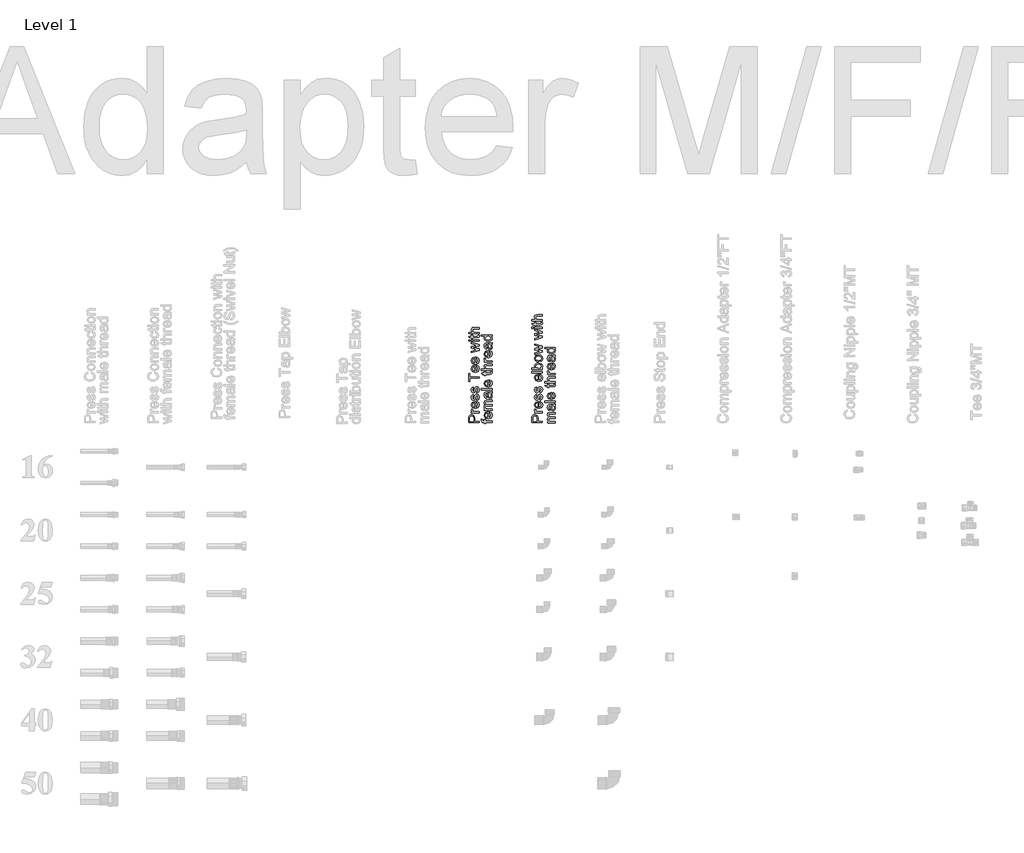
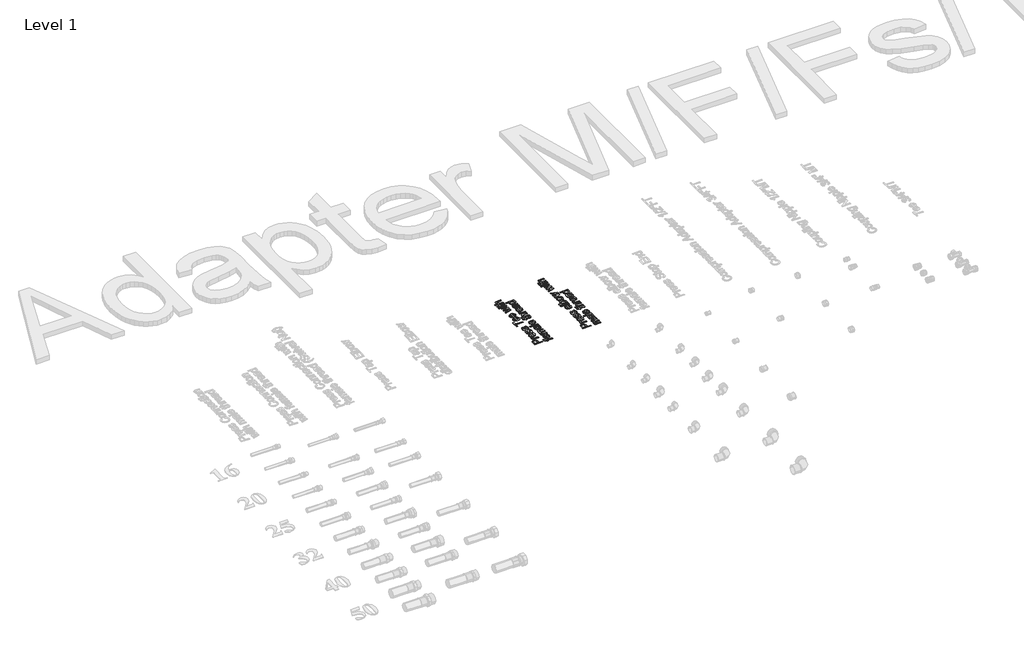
# One storey, part 44 of 57: 2 proxies.
"""IFC4 building model written with IfcOpenShell, lengths in millimetres."""

from ifc_helpers import new_model, si_unit, frame, origin, place, context, project, spatial, polyline, outline, extrude, element, save

model = new_model("IFC4")

# Units and contexts
model_context = context("Model", 3, world=origin())
ifc_project = project(units=[si_unit("LENGTHUNIT", "METRE", prefix="MILLI")], contexts=[model_context])

# Site, building, storey
site = spatial("IfcSite", under=ifc_project)
building = spatial("IfcBuilding", under=site)
storey = spatial("IfcBuildingStorey", under=building, Name="Level 1", Elevation=27.3876384)

# Proxies
placement = place(None, origin())
element("IfcBuildingElementProxy", 1, Name="50mm Arial", ObjectType="50mm Arial", at=placement, inside=storey, context=model_context, shape_type="SweptSolid", body=[
    extrude(outline(polyline([(31239.1417262, 30406.8112945), (31188.9135711, 30406.8112945), (31188.9135711, 30425.4261235), (31189.3918177, 30432.9309162), (31191.7401311, 30439.0316259), (31196.5961734, 30442.9863574), (31203.4449099, 30444.4824108), (31214.2974288, 30440.4418402), (31218.7365382, 30425.8553191), (31218.7365382, 30413.0898139), (31239.1417262, 30413.0898139), (31239.1417262, 30406.8112945)]), holes=[polyline([(31212.4580188, 30413.0898139), (31212.4580188, 30426.2232011), (31210.152625, 30435.4693019), (31203.6656391, 30438.2038914), (31198.4662402, 30436.591342), (31195.6212861, 30432.3545677), (31195.1920905, 30426.0760483), (31195.1920905, 30413.0898139), (31212.4580188, 30413.0898139)])]), frame((0.0, 0.0, 27.3876384), z_axis=(0.0, 0.0, 1.0), x_axis=(1.0, 0.0, 0.0)), (0.0, 0.0, 1.0), 2.0),
    extrude(outline(polyline([(31239.1417262, 30452.33056), (31202.2554248, 30452.33056), (31202.2554248, 30457.8242645), (31207.7123411, 30457.8242645), (31202.6846205, 30461.7238137), (31201.4706099, 30465.6478883), (31203.4081217, 30471.9509331), (31209.0367162, 30469.8540057), (31207.7491293, 30465.4394218), (31208.9876653, 30461.8893606), (31212.4212306, 30459.6268863), (31219.754345, 30458.6090794), (31239.1417262, 30458.6090794), (31239.1417262, 30452.33056)])), frame((0.0, 0.0, 27.3876384), z_axis=(0.0, 0.0, 1.0), x_axis=(1.0, 0.0, 0.0)), (0.0, 0.0, 1.0), 2.0),
    extrude(outline(polyline([(31228.1543173, 30501.7003238), (31228.9391322, 30507.8562159), (31237.0447988, 30502.0988626), (31239.9265411, 30491.3751025), (31234.9540028, 30478.3398171), (31221.0051438, 30473.520563), (31206.5964323, 30478.388868), (31201.4706099, 30491.0194832), (31206.5841696, 30503.2883477), (31220.9683556, 30508.0524196), (31222.6606128, 30508.0156314), (31222.6606128, 30479.7990824), (31230.8153304, 30483.4104573), (31233.6480217, 30491.4977298), (31232.3359093, 30497.6536219), (31228.1543173, 30501.7003238)]), holes=[polyline([(31216.3820934, 30479.7990824), (31216.3820934, 30501.7739002), (31210.6921852, 30499.2600399), (31207.7491293, 30490.9949577), (31210.0974427, 30483.2633045), (31216.3820934, 30479.7990824)])]), frame((0.0, 0.0, 27.3876384), z_axis=(0.0, 0.0, 1.0), x_axis=(1.0, 0.0, 0.0)), (0.0, 0.0, 1.0), 2.0),
    extrude(outline(polyline([(31228.1543173, 30511.9764942), (31227.3695023, 30518.2550136), (31232.0293409, 30521.1612813), (31233.6480217, 30527.8199455), (31232.164231, 30534.2210922), (31228.6816148, 30536.3057568), (31225.8611862, 30534.2088294), (31224.0708271, 30527.7463691), (31220.9990124, 30518.2918018), (31217.412163, 30514.1653921), (31212.3476542, 30512.7613091), (31207.6694215, 30513.8894806), (31204.0948348, 30516.9674266), (31202.2370307, 30520.9589462), (31201.4706099, 30526.3606802), (31202.7030146, 30534.000363), (31206.038478, 30538.8564053), (31211.6732039, 30541.0146464), (31212.4580188, 30534.736127), (31208.9937967, 30532.3755508), (31207.7491293, 30526.8511895), (31208.9386144, 30520.8424503), (31211.7099921, 30519.0398285), (31213.5371393, 30519.7878552), (31214.9228282, 30522.1300373), (31216.2594661, 30527.5379026), (31219.2147848, 30536.7533466), (31222.5625109, 30541.0330404), (31228.0194272, 30542.5842762), (31234.0281664, 30540.7632603), (31238.3875681, 30535.5086792), (31239.9265411, 30527.7341063), (31236.9589597, 30516.7834856), (31228.1543173, 30511.9764942)])), frame((0.0, 0.0, 27.3876384), z_axis=(0.0, 0.0, 1.0), x_axis=(1.0, 0.0, 0.0)), (0.0, 0.0, 1.0), 2.0),
    extrude(outline(polyline([(31228.1543173, 30547.2931657), (31227.3695023, 30553.5716851), (31232.0293409, 30556.4779529), (31233.6480217, 30563.136617), (31232.164231, 30569.5377637), (31228.6816148, 30571.6224283), (31225.8611862, 30569.525501), (31224.0708271, 30563.0630406), (31220.9990124, 30553.6084733), (31217.412163, 30549.4820636), (31212.3476542, 30548.0779807), (31207.6694215, 30549.2061521), (31204.0948348, 30552.2840981), (31202.2370307, 30556.2756178), (31201.4706099, 30561.6773517), (31202.7030146, 30569.3170345), (31206.038478, 30574.1730768), (31211.6732039, 30576.3313179), (31212.4580188, 30570.0527985), (31208.9937967, 30567.6922224), (31207.7491293, 30562.1678611), (31208.9386144, 30556.1591218), (31211.7099921, 30554.3565), (31213.5371393, 30555.1045268), (31214.9228282, 30557.4467088), (31216.2594661, 30562.8545741), (31219.2147848, 30572.0700181), (31222.5625109, 30576.349712), (31228.0194272, 30577.9009477), (31234.0281664, 30576.0799319), (31238.3875681, 30570.8253507), (31239.9265411, 30563.0507779), (31236.9589597, 30552.1001571), (31228.1543173, 30547.2931657)])), frame((0.0, 0.0, 27.3876384), z_axis=(0.0, 0.0, 1.0), x_axis=(1.0, 0.0, 0.0)), (0.0, 0.0, 1.0), 2.0),
    extrude(outline(polyline([(31239.1417262, 30617.9265088), (31195.1920905, 30617.9265088), (31195.1920905, 30601.4453954), (31188.9135711, 30601.4453954), (31188.9135711, 30640.6861416), (31195.1920905, 30640.6861416), (31195.1920905, 30624.2050282), (31239.1417262, 30624.2050282), (31239.1417262, 30617.9265088)])), frame((0.0, 0.0, 27.3876384), z_axis=(0.0, 0.0, 1.0), x_axis=(1.0, 0.0, 0.0)), (0.0, 0.0, 1.0), 2.0),
    extrude(outline(polyline([(31228.1543173, 30672.789977), (31228.9391322, 30678.9458691), (31237.0447988, 30673.1885159), (31239.9265411, 30662.4647557), (31234.9540028, 30649.4294703), (31221.0051438, 30644.6102162), (31206.5964323, 30649.4785213), (31201.4706099, 30662.1091364), (31206.5841696, 30674.378001), (31220.9683556, 30679.1420728), (31222.6606128, 30679.1052846), (31222.6606128, 30650.8887356), (31230.8153304, 30654.5001105), (31233.6480217, 30662.587383), (31232.3359093, 30668.7432751), (31228.1543173, 30672.789977)]), holes=[polyline([(31216.3820934, 30650.8887356), (31216.3820934, 30672.8635534), (31210.6921852, 30670.3496931), (31207.7491293, 30662.084611), (31210.0974427, 30654.3529577), (31216.3820934, 30650.8887356)])]), frame((0.0, 0.0, 27.3876384), z_axis=(0.0, 0.0, 1.0), x_axis=(1.0, 0.0, 0.0)), (0.0, 0.0, 1.0), 2.0),
    extrude(outline(polyline([(31228.1543173, 30711.2459083), (31228.9391322, 30717.4018003), (31237.0447988, 30711.6444471), (31239.9265411, 30700.9206869), (31234.9540028, 30687.8854016), (31221.0051438, 30683.0661474), (31206.5964323, 30687.9344525), (31201.4706099, 30700.5650677), (31206.5841696, 30712.8339322), (31220.9683556, 30717.598004), (31222.6606128, 30717.5612158), (31222.6606128, 30689.3446668), (31230.8153304, 30692.9560417), (31233.6480217, 30701.0433143), (31232.3359093, 30707.1992063), (31228.1543173, 30711.2459083)]), holes=[polyline([(31216.3820934, 30689.3446668), (31216.3820934, 30711.3194847), (31210.6921852, 30708.8056244), (31207.7491293, 30700.5405422), (31210.0974427, 30692.8088889), (31216.3820934, 30689.3446668)])]), frame((0.0, 0.0, 27.3876384), z_axis=(0.0, 0.0, 1.0), x_axis=(1.0, 0.0, 0.0)), (0.0, 0.0, 1.0), 2.0),
    extrude(outline(polyline([(31239.1417262, 30749.6160003), (31202.2554248, 30738.3955995), (31202.2554248, 30744.9193735), (31223.7765215, 30751.2837321), (31231.4652552, 30753.1844557), (31224.0585644, 30754.7418228), (31202.2554248, 30759.8063316), (31202.2554248, 30767.2865989), (31223.9972507, 30772.3265822), (31230.7049658, 30773.712271), (31223.6293687, 30775.6988338), (31202.2554248, 30782.0754551), (31202.2554248, 30788.6237546), (31239.1417262, 30777.3175146), (31239.1417262, 30769.7268828), (31217.5102649, 30764.9076286), (31210.7657616, 30763.509677), (31239.1417262, 30757.2924713), (31239.1417262, 30749.6160003)])), frame((0.0, 0.0, 27.3876384), z_axis=(0.0, 0.0, 1.0), x_axis=(1.0, 0.0, 0.0)), (0.0, 0.0, 1.0), 2.0),
    extrude(outline(polyline([(31239.1417262, 30792.9402366), (31202.2554248, 30792.9402366), (31202.2554248, 30799.218756), (31239.1417262, 30799.218756), (31239.1417262, 30792.9402366)])), frame((0.0, 0.0, 27.3876384), z_axis=(0.0, 0.0, 1.0), x_axis=(1.0, 0.0, 0.0)), (0.0, 0.0, 1.0), 2.0),
    extrude(outline(polyline([(31195.1920905, 30792.9402366), (31188.9135711, 30792.9402366), (31188.9135711, 30799.218756), (31195.1920905, 30799.218756), (31195.1920905, 30792.9402366)])), frame((0.0, 0.0, 27.3876384), z_axis=(0.0, 0.0, 1.0), x_axis=(1.0, 0.0, 0.0)), (0.0, 0.0, 1.0), 2.0),
    extrude(outline(polyline([(31233.9055391, 30821.9783888), (31239.3256672, 30822.7632037), (31239.9265411, 30818.0665769), (31238.8842088, 30812.8058644), (31236.1496193, 30810.1816395), (31229.0249713, 30809.42135), (31208.5339442, 30809.42135), (31208.5339442, 30804.7124605), (31202.2554248, 30804.7124605), (31202.2554248, 30809.42135), (31193.2913668, 30809.42135), (31189.6002842, 30815.6998694), (31202.2554248, 30815.6998694), (31202.2554248, 30821.9783888), (31208.5339442, 30821.9783888), (31208.5339442, 30815.6998694), (31228.8410303, 30815.6998694), (31232.0783919, 30816.0309632), (31233.6480217, 30819.2437993), (31233.9055391, 30821.9783888)])), frame((0.0, 0.0, 27.3876384), z_axis=(0.0, 0.0, 1.0), x_axis=(1.0, 0.0, 0.0)), (0.0, 0.0, 1.0), 2.0),
    extrude(outline(polyline([(31239.1417262, 30828.2569082), (31188.9135711, 30828.2569082), (31188.9135711, 30834.5354276), (31207.3812473, 30834.5354276), (31201.4706099, 30845.4615228), (31203.0831593, 30852.5125944), (31207.5406628, 30856.7922883), (31215.7934822, 30858.0798753), (31239.1417262, 30858.0798753), (31239.1417262, 30851.8013559), (31216.4434071, 30851.8013559), (31209.8215312, 30849.8025304), (31207.7491293, 30844.1371476), (31209.1470808, 30838.9929311), (31212.9362654, 30835.5593658), (31219.5458786, 30834.5354276), (31239.1417262, 30834.5354276), (31239.1417262, 30828.2569082)])), frame((0.0, 0.0, 27.3876384), z_axis=(0.0, 0.0, 1.0), x_axis=(1.0, 0.0, 0.0)), (0.0, 0.0, 1.0), 2.0),
    extrude(outline(polyline([(31300.1291351, 30407.5961094), (31269.5213531, 30407.5961094), (31269.5213531, 30402.102405), (31263.2428337, 30402.102405), (31263.2428337, 30407.5961094), (31259.5272256, 30407.5961094), (31254.2910385, 30408.258297), (31250.5509049, 30411.4711331), (31249.1161651, 30417.7987034), (31249.8028782, 30423.5253998), (31255.6889901, 30422.6056948), (31255.3946845, 30418.9881885), (31256.4370168, 30415.0334571), (31260.3243032, 30413.8746288), (31263.2428337, 30413.8746288), (31263.2428337, 30420.9379631), (31269.5213531, 30420.9379631), (31269.5213531, 30413.8746288), (31300.1291351, 30413.8746288), (31300.1291351, 30407.5961094)])), frame((0.0, 0.0, 27.3876384), z_axis=(0.0, 0.0, 1.0), x_axis=(1.0, 0.0, 0.0)), (0.0, 0.0, 1.0), 2.0),
    extrude(outline(polyline([(31289.1417262, 30452.2569836), (31289.9265411, 30458.4128757), (31298.0322077, 30452.6555225), (31300.91395, 30441.9317623), (31295.9414117, 30428.896477), (31281.9925527, 30424.0772228), (31267.5838413, 30428.9455279), (31262.4580188, 30441.5761431), (31267.5715785, 30453.8450076), (31281.9557645, 30458.6090794), (31283.6480217, 30458.5722912), (31283.6480217, 30430.3557422), (31291.8027393, 30433.9671171), (31294.6354306, 30442.0543896), (31293.3233182, 30448.2102817), (31289.1417262, 30452.2569836)]), holes=[polyline([(31277.3695023, 30430.3557422), (31277.3695023, 30452.33056), (31271.6795941, 30449.8166997), (31268.7365382, 30441.5516176), (31271.0848516, 30433.8199643), (31277.3695023, 30430.3557422)])]), frame((0.0, 0.0, 27.3876384), z_axis=(0.0, 0.0, 1.0), x_axis=(1.0, 0.0, 0.0)), (0.0, 0.0, 1.0), 2.0),
    extrude(outline(polyline([(31300.1291351, 30464.8875988), (31263.2428337, 30464.8875988), (31263.2428337, 30471.1661182), (31269.3128866, 30471.1661182), (31264.3403483, 30475.4826003), (31262.4580188, 30481.6262296), (31264.3771365, 30487.9170117), (31269.754345, 30491.3751025), (31264.2821004, 30496.2740644), (31262.4580188, 30502.4606133), (31265.4930453, 30510.6705131), (31274.8433793, 30513.546124), (31300.1291351, 30513.546124), (31300.1291351, 30507.2676047), (31277.5411806, 30507.2676047), (31272.2988622, 30506.6851248), (31269.7175568, 30504.5759347), (31268.7365382, 30500.9890853), (31271.2503985, 30494.8147991), (31279.3070142, 30492.3561211), (31300.1291351, 30492.3561211), (31300.1291351, 30486.0776017), (31276.8422048, 30486.0776017), (31270.7598892, 30484.6244679), (31268.7365382, 30479.860396), (31270.0854388, 30475.2128201), (31274.0340389, 30472.1226114), (31281.5265689, 30471.1661182), (31300.1291351, 30471.1661182), (31300.1291351, 30464.8875988)])), frame((0.0, 0.0, 27.3876384), z_axis=(0.0, 0.0, 1.0), x_axis=(1.0, 0.0, 0.0)), (0.0, 0.0, 1.0), 2.0),
    extrude(outline(polyline([(31295.4202456, 30546.5083508), (31299.675414, 30540.4199038), (31300.91395, 30533.6937946), (31297.9341059, 30524.5764525), (31290.3189486, 30521.3942733), (31285.3525416, 30522.5960211), (31281.7472981, 30525.7536749), (31279.6871589, 30530.1498648), (31278.7429284, 30535.5822556), (31276.5846874, 30546.4715626), (31270.5514227, 30544.7793054), (31268.7365382, 30537.8385985), (31269.9444174, 30531.4865027), (31274.2302426, 30528.4576076), (31273.4454277, 30522.1790882), (31267.3140611, 30524.8952836), (31263.7210803, 30530.3644626), (31262.4580188, 30538.6479388), (31263.5739275, 30546.2569648), (31266.375962, 30550.5550528), (31270.6372618, 30552.4803019), (31276.1309663, 30552.7868702), (31283.9423273, 30552.7868702), (31294.8500285, 30553.1057013), (31300.1291351, 30554.3565), (31300.1291351, 30548.0779807), (31295.4202456, 30546.5083508)]), holes=[polyline([(31282.8632068, 30546.5083508), (31284.7884559, 30536.3793332), (31285.8062628, 30530.9775992), (31287.4617317, 30528.531184), (31289.8774902, 30527.6727927), (31293.2742673, 30529.5428595), (31294.6354306, 30535.0304326), (31293.1332458, 30541.3825283), (31289.4973454, 30545.4782812), (31284.6413031, 30546.4715626), (31282.8632068, 30546.5083508)])]), frame((0.0, 0.0, 27.3876384), z_axis=(0.0, 0.0, 1.0), x_axis=(1.0, 0.0, 0.0)), (0.0, 0.0, 1.0), 2.0),
    extrude(outline(polyline([(31300.1291351, 30561.4198343), (31249.90098, 30561.4198343), (31249.90098, 30567.6983537), (31300.1291351, 30567.6983537), (31300.1291351, 30561.4198343)])), frame((0.0, 0.0, 27.3876384), z_axis=(0.0, 0.0, 1.0), x_axis=(1.0, 0.0, 0.0)), (0.0, 0.0, 1.0), 2.0),
    extrude(outline(polyline([(31289.1417262, 30602.9414489), (31289.9265411, 30609.0973409), (31298.0322077, 30603.3399877), (31300.91395, 30592.6162275), (31295.9414117, 30579.5809422), (31281.9925527, 30574.761688), (31267.5838413, 30579.6299931), (31262.4580188, 30592.2606083), (31267.5715785, 30604.5294728), (31281.9557645, 30609.2935447), (31283.6480217, 30609.2567565), (31283.6480217, 30581.0402074), (31291.8027393, 30584.6515823), (31294.6354306, 30592.7388549), (31293.3233182, 30598.8947469), (31289.1417262, 30602.9414489)]), holes=[polyline([(31277.3695023, 30581.0402074), (31277.3695023, 30603.0150253), (31271.6795941, 30600.501165), (31268.7365382, 30592.2360828), (31271.0848516, 30584.5044295), (31277.3695023, 30581.0402074)])]), frame((0.0, 0.0, 27.3876384), z_axis=(0.0, 0.0, 1.0), x_axis=(1.0, 0.0, 0.0)), (0.0, 0.0, 1.0), 2.0),
    extrude(outline(polyline([(31294.892948, 30648.5342908), (31300.3130761, 30649.3191057), (31300.91395, 30644.6224789), (31299.8716177, 30639.3617664), (31297.1370282, 30636.7375415), (31290.0123802, 30635.977252), (31269.5213531, 30635.977252), (31269.5213531, 30631.2683625), (31263.2428337, 30631.2683625), (31263.2428337, 30635.977252), (31254.2787758, 30635.977252), (31250.5876931, 30642.2557714), (31263.2428337, 30642.2557714), (31263.2428337, 30648.5342908), (31269.5213531, 30648.5342908), (31269.5213531, 30642.2557714), (31289.8284392, 30642.2557714), (31293.0658008, 30642.5868652), (31294.6354306, 30645.7997013), (31294.892948, 30648.5342908)])), frame((0.0, 0.0, 27.3876384), z_axis=(0.0, 0.0, 1.0), x_axis=(1.0, 0.0, 0.0)), (0.0, 0.0, 1.0), 2.0),
    extrude(outline(polyline([(31300.1291351, 30654.8128102), (31249.90098, 30654.8128102), (31249.90098, 30661.0913296), (31268.3686562, 30661.0913296), (31262.4580188, 30672.0174248), (31264.0705682, 30679.0684964), (31268.5280717, 30683.3481903), (31276.7808911, 30684.6357773), (31300.1291351, 30684.6357773), (31300.1291351, 30678.3572579), (31277.430816, 30678.3572579), (31270.8089401, 30676.3584324), (31268.7365382, 30670.6930496), (31270.1344898, 30665.5488331), (31273.9236743, 30662.1152678), (31280.5332875, 30661.0913296), (31300.1291351, 30661.0913296), (31300.1291351, 30654.8128102)])), frame((0.0, 0.0, 27.3876384), z_axis=(0.0, 0.0, 1.0), x_axis=(1.0, 0.0, 0.0)), (0.0, 0.0, 1.0), 2.0),
    extrude(outline(polyline([(31300.1291351, 30693.2687414), (31263.2428337, 30693.2687414), (31263.2428337, 30698.7624459), (31268.69975, 30698.7624459), (31263.6720294, 30702.661995), (31262.4580188, 30706.5860696), (31264.3955306, 30712.8891145), (31270.0241252, 30710.7921871), (31268.7365382, 30706.3776032), (31269.9750742, 30702.8275419), (31273.4086395, 30700.5650677), (31280.741754, 30699.5472608), (31300.1291351, 30699.5472608), (31300.1291351, 30693.2687414)])), frame((0.0, 0.0, 27.3876384), z_axis=(0.0, 0.0, 1.0), x_axis=(1.0, 0.0, 0.0)), (0.0, 0.0, 1.0), 2.0),
    extrude(outline(polyline([(31289.1417262, 30742.6385052), (31289.9265411, 30748.7943972), (31298.0322077, 30743.037044), (31300.91395, 30732.3132838), (31295.9414117, 30719.2779985), (31281.9925527, 30714.4587443), (31267.5838413, 30719.3270494), (31262.4580188, 30731.9576646), (31267.5715785, 30744.2265291), (31281.9557645, 30748.990601), (31283.6480217, 30748.9538128), (31283.6480217, 30720.7372637), (31291.8027393, 30724.3486386), (31294.6354306, 30732.4359112), (31293.3233182, 30738.5918032), (31289.1417262, 30742.6385052)]), holes=[polyline([(31277.3695023, 30720.7372637), (31277.3695023, 30742.7120816), (31271.6795941, 30740.1982213), (31268.7365382, 30731.9331391), (31271.0848516, 30724.2014858), (31277.3695023, 30720.7372637)])]), frame((0.0, 0.0, 27.3876384), z_axis=(0.0, 0.0, 1.0), x_axis=(1.0, 0.0, 0.0)), (0.0, 0.0, 1.0), 2.0),
    extrude(outline(polyline([(31295.4202456, 30778.813568), (31299.675414, 30772.725121), (31300.91395, 30765.9990119), (31297.9341059, 30756.8816698), (31290.3189486, 30753.6994905), (31285.3525416, 30754.9012383), (31281.7472981, 30758.0588921), (31279.6871589, 30762.455082), (31278.7429284, 30767.8874728), (31276.5846874, 30778.7767798), (31270.5514227, 30777.0845227), (31268.7365382, 30770.1438157), (31269.9444174, 30763.7917199), (31274.2302426, 30760.7628248), (31273.4454277, 30754.4843054), (31267.3140611, 30757.2005008), (31263.7210803, 30762.6696798), (31262.4580188, 30770.9531561), (31263.5739275, 30778.562182), (31266.375962, 30782.86027), (31270.6372618, 30784.7855191), (31276.1309663, 30785.0920874), (31283.9423273, 30785.0920874), (31294.8500285, 30785.4109185), (31300.1291351, 30786.6617173), (31300.1291351, 30780.3831979), (31295.4202456, 30778.813568)]), holes=[polyline([(31282.8632068, 30778.813568), (31284.7884559, 30768.6845504), (31285.8062628, 30763.2828165), (31287.4617317, 30760.8364012), (31289.8774902, 30759.9780099), (31293.2742673, 30761.8480767), (31294.6354306, 30767.3356498), (31293.1332458, 30773.6877456), (31289.4973454, 30777.7834984), (31284.6413031, 30778.7767798), (31282.8632068, 30778.813568)])]), frame((0.0, 0.0, 27.3876384), z_axis=(0.0, 0.0, 1.0), x_axis=(1.0, 0.0, 0.0)), (0.0, 0.0, 1.0), 2.0),
    extrude(outline(polyline([(31300.1291351, 30816.4846843), (31294.206235, 30816.4846843), (31299.2370213, 30812.3306835), (31300.91395, 30806.5886587), (31298.4859289, 30798.8140858), (31291.7107688, 30793.3203814), (31281.7227726, 30791.3706068), (31271.7286451, 30793.1670972), (31264.8492518, 30798.5504371), (31262.4580188, 30806.5641332), (31264.1686701, 30812.3521433), (31268.6139108, 30816.4846843), (31249.90098, 30816.4846843), (31249.90098, 30822.7632037), (31300.1291351, 30822.7632037), (31300.1291351, 30816.4846843)]), holes=[polyline([(31281.6982471, 30797.6491262), (31291.4164632, 30800.4818175), (31294.6354306, 30807.1650071), (31291.563616, 30813.7684889), (31282.1764937, 30816.4846843), (31271.9861625, 30813.719438), (31268.7365382, 30806.9074897), (31271.8574038, 30800.2978766), (31281.6982471, 30797.6491262)])]), frame((0.0, 0.0, 27.3876384), z_axis=(0.0, 0.0, 1.0), x_axis=(1.0, 0.0, 0.0)), (0.0, 0.0, 1.0), 2.0),
])
element("IfcBuildingElementProxy", 2, Name="50mm Arial", ObjectType="50mm Arial", at=placement, inside=storey, context=model_context, shape_type="SweptSolid", body=[
    extrude(outline(polyline([(31539.1417262, 30406.8112945), (31488.9135711, 30406.8112945), (31488.9135711, 30425.4261235), (31489.3918177, 30432.9309162), (31491.7401311, 30439.0316259), (31496.5961734, 30442.9863574), (31503.4449099, 30444.4824108), (31514.2974288, 30440.4418402), (31518.7365382, 30425.8553191), (31518.7365382, 30413.0898139), (31539.1417262, 30413.0898139), (31539.1417262, 30406.8112945)]), holes=[polyline([(31512.4580188, 30413.0898139), (31512.4580188, 30426.2232011), (31510.152625, 30435.4693019), (31503.6656391, 30438.2038914), (31498.4662402, 30436.591342), (31495.6212861, 30432.3545677), (31495.1920905, 30426.0760483), (31495.1920905, 30413.0898139), (31512.4580188, 30413.0898139)])]), frame((0.0, 0.0, 27.3876384), z_axis=(0.0, 0.0, 1.0), x_axis=(1.0, 0.0, 0.0)), (0.0, 0.0, 1.0), 2.0),
    extrude(outline(polyline([(31539.1417262, 30452.33056), (31502.2554248, 30452.33056), (31502.2554248, 30457.8242645), (31507.7123411, 30457.8242645), (31502.6846205, 30461.7238137), (31501.4706099, 30465.6478883), (31503.4081217, 30471.9509331), (31509.0367162, 30469.8540057), (31507.7491293, 30465.4394218), (31508.9876653, 30461.8893606), (31512.4212306, 30459.6268863), (31519.754345, 30458.6090794), (31539.1417262, 30458.6090794), (31539.1417262, 30452.33056)])), frame((0.0, 0.0, 27.3876384), z_axis=(0.0, 0.0, 1.0), x_axis=(1.0, 0.0, 0.0)), (0.0, 0.0, 1.0), 2.0),
    extrude(outline(polyline([(31528.1543173, 30501.7003238), (31528.9391322, 30507.8562159), (31537.0447988, 30502.0988626), (31539.9265411, 30491.3751025), (31534.9540028, 30478.3398171), (31521.0051438, 30473.520563), (31506.5964323, 30478.388868), (31501.4706099, 30491.0194832), (31506.5841696, 30503.2883477), (31520.9683556, 30508.0524196), (31522.6606128, 30508.0156314), (31522.6606128, 30479.7990824), (31530.8153304, 30483.4104573), (31533.6480217, 30491.4977298), (31532.3359093, 30497.6536219), (31528.1543173, 30501.7003238)]), holes=[polyline([(31516.3820934, 30479.7990824), (31516.3820934, 30501.7739002), (31510.6921852, 30499.2600399), (31507.7491293, 30490.9949577), (31510.0974427, 30483.2633045), (31516.3820934, 30479.7990824)])]), frame((0.0, 0.0, 27.3876384), z_axis=(0.0, 0.0, 1.0), x_axis=(1.0, 0.0, 0.0)), (0.0, 0.0, 1.0), 2.0),
    extrude(outline(polyline([(31528.1543173, 30511.9764942), (31527.3695023, 30518.2550136), (31532.0293409, 30521.1612813), (31533.6480217, 30527.8199455), (31532.164231, 30534.2210922), (31528.6816148, 30536.3057568), (31525.8611862, 30534.2088294), (31524.0708271, 30527.7463691), (31520.9990124, 30518.2918018), (31517.412163, 30514.1653921), (31512.3476542, 30512.7613091), (31507.6694215, 30513.8894806), (31504.0948348, 30516.9674266), (31502.2370307, 30520.9589462), (31501.4706099, 30526.3606802), (31502.7030146, 30534.000363), (31506.038478, 30538.8564053), (31511.6732039, 30541.0146464), (31512.4580188, 30534.736127), (31508.9937967, 30532.3755508), (31507.7491293, 30526.8511895), (31508.9386144, 30520.8424503), (31511.7099921, 30519.0398285), (31513.5371393, 30519.7878552), (31514.9228282, 30522.1300373), (31516.2594661, 30527.5379026), (31519.2147848, 30536.7533466), (31522.5625109, 30541.0330404), (31528.0194272, 30542.5842762), (31534.0281664, 30540.7632603), (31538.3875681, 30535.5086792), (31539.9265411, 30527.7341063), (31536.9589597, 30516.7834856), (31528.1543173, 30511.9764942)])), frame((0.0, 0.0, 27.3876384), z_axis=(0.0, 0.0, 1.0), x_axis=(1.0, 0.0, 0.0)), (0.0, 0.0, 1.0), 2.0),
    extrude(outline(polyline([(31528.1543173, 30547.2931657), (31527.3695023, 30553.5716851), (31532.0293409, 30556.4779529), (31533.6480217, 30563.136617), (31532.164231, 30569.5377637), (31528.6816148, 30571.6224283), (31525.8611862, 30569.525501), (31524.0708271, 30563.0630406), (31520.9990124, 30553.6084733), (31517.412163, 30549.4820636), (31512.3476542, 30548.0779807), (31507.6694215, 30549.2061521), (31504.0948348, 30552.2840981), (31502.2370307, 30556.2756178), (31501.4706099, 30561.6773517), (31502.7030146, 30569.3170345), (31506.038478, 30574.1730768), (31511.6732039, 30576.3313179), (31512.4580188, 30570.0527985), (31508.9937967, 30567.6922224), (31507.7491293, 30562.1678611), (31508.9386144, 30556.1591218), (31511.7099921, 30554.3565), (31513.5371393, 30555.1045268), (31514.9228282, 30557.4467088), (31516.2594661, 30562.8545741), (31519.2147848, 30572.0700181), (31522.5625109, 30576.349712), (31528.0194272, 30577.9009477), (31534.0281664, 30576.0799319), (31538.3875681, 30570.8253507), (31539.9265411, 30563.0507779), (31536.9589597, 30552.1001571), (31528.1543173, 30547.2931657)])), frame((0.0, 0.0, 27.3876384), z_axis=(0.0, 0.0, 1.0), x_axis=(1.0, 0.0, 0.0)), (0.0, 0.0, 1.0), 2.0),
    extrude(outline(polyline([(31528.1543173, 30630.4099712), (31528.9391322, 30636.5658632), (31537.0447988, 30630.80851), (31539.9265411, 30620.0847498), (31534.9540028, 30607.0494645), (31521.0051438, 30602.2302103), (31506.5964323, 30607.0985154), (31501.4706099, 30619.7291306), (31506.5841696, 30631.9979951), (31520.9683556, 30636.762067), (31522.6606128, 30636.7252788), (31522.6606128, 30608.5087297), (31530.8153304, 30612.1201047), (31533.6480217, 30620.2073772), (31532.3359093, 30626.3632692), (31528.1543173, 30630.4099712)]), holes=[polyline([(31516.3820934, 30608.5087297), (31516.3820934, 30630.4835476), (31510.6921852, 30627.9696873), (31507.7491293, 30619.7046051), (31510.0974427, 30611.9729519), (31516.3820934, 30608.5087297)])]), frame((0.0, 0.0, 27.3876384), z_axis=(0.0, 0.0, 1.0), x_axis=(1.0, 0.0, 0.0)), (0.0, 0.0, 1.0), 2.0),
    extrude(outline(polyline([(31539.1417262, 30643.0405863), (31488.9135711, 30643.0405863), (31488.9135711, 30649.3191057), (31539.1417262, 30649.3191057), (31539.1417262, 30643.0405863)])), frame((0.0, 0.0, 27.3876384), z_axis=(0.0, 0.0, 1.0), x_axis=(1.0, 0.0, 0.0)), (0.0, 0.0, 1.0), 2.0),
    extrude(outline(polyline([(31539.1417262, 30665.0154042), (31539.1417262, 30658.7368848), (31488.9135711, 30658.7368848), (31488.9135711, 30665.0154042), (31507.5406628, 30665.0154042), (31501.4706099, 30674.8746417), (31502.8379046, 30681.1654238), (31506.6822715, 30686.0459916), (31512.6603539, 30689.0442298), (31520.1467525, 30690.1294817), (31534.7639304, 30685.63519), (31539.9265411, 30674.8378535), (31538.2618751, 30669.2552442), (31533.267877, 30665.0154042), (31539.1417262, 30665.0154042)]), holes=[polyline([(31520.4410581, 30665.0154042), (31529.221175, 30666.7321868), (31533.6480217, 30674.2982932), (31530.3861347, 30681.018271), (31520.6617873, 30683.8509623), (31510.9006517, 30681.1347669), (31507.7491293, 30674.5680733), (31511.0110163, 30667.8480956), (31520.4410581, 30665.0154042)])]), frame((0.0, 0.0, 27.3876384), z_axis=(0.0, 0.0, 1.0), x_axis=(1.0, 0.0, 0.0)), (0.0, 0.0, 1.0), 2.0),
    extrude(outline(polyline([(31520.6985755, 30695.6231862), (31511.8050283, 30696.9812839), (31505.5541, 30701.055577), (31501.4706099, 30712.1165623), (31506.4431482, 30723.9807567), (31520.1835407, 30728.585413), (31531.3548906, 30726.5497993), (31537.6763296, 30720.6207678), (31539.9265411, 30712.1165623), (31534.9723969, 30700.1787916), (31520.6985755, 30695.6231862)]), holes=[polyline([(31520.6863128, 30701.9017056), (31530.4167915, 30704.8079733), (31533.6480217, 30712.1165623), (31530.3983974, 30719.4006258), (31520.490109, 30722.3068936), (31510.9803594, 30719.3822317), (31507.7491293, 30712.1165623), (31510.9680967, 30704.8079733), (31520.6863128, 30701.9017056)])]), frame((0.0, 0.0, 27.3876384), z_axis=(0.0, 0.0, 1.0), x_axis=(1.0, 0.0, 0.0)), (0.0, 0.0, 1.0), 2.0),
    extrude(outline(polyline([(31539.1417262, 30741.7678511), (31502.2554248, 30730.5474503), (31502.2554248, 30737.0712243), (31523.7765215, 30743.4355828), (31531.4652552, 30745.3363065), (31524.0585644, 30746.8936736), (31502.2554248, 30751.9581824), (31502.2554248, 30759.4384496), (31523.9972507, 30764.478433), (31530.7049658, 30765.8641218), (31523.6293687, 30767.8506846), (31502.2554248, 30774.2273058), (31502.2554248, 30780.7756053), (31539.1417262, 30769.4693654), (31539.1417262, 30761.8787335), (31517.5102649, 30757.0594794), (31510.7657616, 30755.6615278), (31539.1417262, 30749.4443221), (31539.1417262, 30741.7678511)])), frame((0.0, 0.0, 27.3876384), z_axis=(0.0, 0.0, 1.0), x_axis=(1.0, 0.0, 0.0)), (0.0, 0.0, 1.0), 2.0),
    extrude(outline(polyline([(31539.1417262, 30810.8315643), (31502.2554248, 30799.6111635), (31502.2554248, 30806.1349375), (31523.7765215, 30812.4992961), (31531.4652552, 30814.4000197), (31524.0585644, 30815.9573868), (31502.2554248, 30821.0218956), (31502.2554248, 30828.5021628), (31523.9972507, 30833.5421462), (31530.7049658, 30834.927835), (31523.6293687, 30836.9143978), (31502.2554248, 30843.2910191), (31502.2554248, 30849.8393186), (31539.1417262, 30838.5330786), (31539.1417262, 30830.9424467), (31517.5102649, 30826.1231926), (31510.7657616, 30824.725241), (31539.1417262, 30818.5080353), (31539.1417262, 30810.8315643)])), frame((0.0, 0.0, 27.3876384), z_axis=(0.0, 0.0, 1.0), x_axis=(1.0, 0.0, 0.0)), (0.0, 0.0, 1.0), 2.0),
    extrude(outline(polyline([(31539.1417262, 30854.1558006), (31502.2554248, 30854.1558006), (31502.2554248, 30860.43432), (31539.1417262, 30860.43432), (31539.1417262, 30854.1558006)])), frame((0.0, 0.0, 27.3876384), z_axis=(0.0, 0.0, 1.0), x_axis=(1.0, 0.0, 0.0)), (0.0, 0.0, 1.0), 2.0),
    extrude(outline(polyline([(31495.1920905, 30854.1558006), (31488.9135711, 30854.1558006), (31488.9135711, 30860.43432), (31495.1920905, 30860.43432), (31495.1920905, 30854.1558006)])), frame((0.0, 0.0, 27.3876384), z_axis=(0.0, 0.0, 1.0), x_axis=(1.0, 0.0, 0.0)), (0.0, 0.0, 1.0), 2.0),
    extrude(outline(polyline([(31533.9055391, 30883.1939528), (31539.3256672, 30883.9787677), (31539.9265411, 30879.2821409), (31538.8842088, 30874.0214284), (31536.1496193, 30871.3972035), (31529.0249713, 30870.636914), (31508.5339442, 30870.636914), (31508.5339442, 30865.9280245), (31502.2554248, 30865.9280245), (31502.2554248, 30870.636914), (31493.2913668, 30870.636914), (31489.6002842, 30876.9154334), (31502.2554248, 30876.9154334), (31502.2554248, 30883.1939528), (31508.5339442, 30883.1939528), (31508.5339442, 30876.9154334), (31528.8410303, 30876.9154334), (31532.0783919, 30877.2465272), (31533.6480217, 30880.4593633), (31533.9055391, 30883.1939528)])), frame((0.0, 0.0, 27.3876384), z_axis=(0.0, 0.0, 1.0), x_axis=(1.0, 0.0, 0.0)), (0.0, 0.0, 1.0), 2.0),
    extrude(outline(polyline([(31539.1417262, 30889.4724722), (31488.9135711, 30889.4724722), (31488.9135711, 30895.7509916), (31507.3812473, 30895.7509916), (31501.4706099, 30906.6770868), (31503.0831593, 30913.7281584), (31507.5406628, 30918.0078523), (31515.7934822, 30919.2954393), (31539.1417262, 30919.2954393), (31539.1417262, 30913.0169199), (31516.4434071, 30913.0169199), (31509.8215312, 30911.0180944), (31507.7491293, 30905.3527116), (31509.1470808, 30900.2084951), (31512.9362654, 30896.7749298), (31519.5458786, 30895.7509916), (31539.1417262, 30895.7509916), (31539.1417262, 30889.4724722)])), frame((0.0, 0.0, 27.3876384), z_axis=(0.0, 0.0, 1.0), x_axis=(1.0, 0.0, 0.0)), (0.0, 0.0, 1.0), 2.0),
    extrude(outline(polyline([(31600.1291351, 30406.0264796), (31563.2428337, 30406.0264796), (31563.2428337, 30412.304999), (31569.3128866, 30412.304999), (31564.3403483, 30416.621481), (31562.4580188, 30422.7651104), (31564.3771365, 30429.0558925), (31569.754345, 30432.5139832), (31564.2821004, 30437.4129451), (31562.4580188, 30443.599494), (31565.4930453, 30451.8093939), (31574.8433793, 30454.6850048), (31600.1291351, 30454.6850048), (31600.1291351, 30448.4064854), (31577.5411806, 30448.4064854), (31572.2988622, 30447.8240056), (31569.7175568, 30445.7148155), (31568.7365382, 30442.127966), (31571.2503985, 30435.9536799), (31579.3070142, 30433.4950019), (31600.1291351, 30433.4950019), (31600.1291351, 30427.2164825), (31576.8422048, 30427.2164825), (31570.7598892, 30425.7633486), (31568.7365382, 30420.9992768), (31570.0854388, 30416.3517009), (31574.0340389, 30413.2614922), (31581.5265689, 30412.304999), (31600.1291351, 30412.304999), (31600.1291351, 30406.0264796)])), frame((0.0, 0.0, 27.3876384), z_axis=(0.0, 0.0, 1.0), x_axis=(1.0, 0.0, 0.0)), (0.0, 0.0, 1.0), 2.0),
    extrude(outline(polyline([(31595.4202456, 30487.6472316), (31599.675414, 30481.5587846), (31600.91395, 30474.8326754), (31597.9341059, 30465.7153333), (31590.3189486, 30462.533154), (31585.3525416, 30463.7349019), (31581.7472981, 30466.8925557), (31579.6871589, 30471.2887455), (31578.7429284, 30476.7211363), (31576.5846874, 30487.6104434), (31570.5514227, 30485.9181862), (31568.7365382, 30478.9774792), (31569.9444174, 30472.6253834), (31574.2302426, 30469.5964884), (31573.4454277, 30463.317969), (31567.3140611, 30466.0341644), (31563.7210803, 30471.5033434), (31562.4580188, 30479.7868196), (31563.5739275, 30487.3958456), (31566.375962, 30491.6939335), (31570.6372618, 30493.6191826), (31576.1309663, 30493.925751), (31583.9423273, 30493.925751), (31594.8500285, 30494.244582), (31600.1291351, 30495.4953808), (31600.1291351, 30489.2168614), (31595.4202456, 30487.6472316)]), holes=[polyline([(31582.8632068, 30487.6472316), (31584.7884559, 30477.518214), (31585.8062628, 30472.11648), (31587.4617317, 30469.6700648), (31589.8774902, 30468.8116734), (31593.2742673, 30470.6817402), (31594.6354306, 30476.1693133), (31593.1332458, 30482.5214091), (31589.4973454, 30486.617162), (31584.6413031, 30487.6104434), (31582.8632068, 30487.6472316)])]), frame((0.0, 0.0, 27.3876384), z_axis=(0.0, 0.0, 1.0), x_axis=(1.0, 0.0, 0.0)), (0.0, 0.0, 1.0), 2.0),
    extrude(outline(polyline([(31600.1291351, 30502.5587151), (31549.90098, 30502.5587151), (31549.90098, 30508.8372345), (31600.1291351, 30508.8372345), (31600.1291351, 30502.5587151)])), frame((0.0, 0.0, 27.3876384), z_axis=(0.0, 0.0, 1.0), x_axis=(1.0, 0.0, 0.0)), (0.0, 0.0, 1.0), 2.0),
    extrude(outline(polyline([(31589.1417262, 30544.0803296), (31589.9265411, 30550.2362217), (31598.0322077, 30544.4788685), (31600.91395, 30533.7551083), (31595.9414117, 30520.7198229), (31581.9925527, 30515.9005688), (31567.5838413, 30520.7688739), (31562.4580188, 30533.399489), (31567.5715785, 30545.6683536), (31581.9557645, 30550.4324254), (31583.6480217, 30550.3956372), (31583.6480217, 30522.1790882), (31591.8027393, 30525.7904631), (31594.6354306, 30533.8777356), (31593.3233182, 30540.0336277), (31589.1417262, 30544.0803296)]), holes=[polyline([(31577.3695023, 30522.1790882), (31577.3695023, 30544.153906), (31571.6795941, 30541.6400457), (31568.7365382, 30533.3749636), (31571.0848516, 30525.6433103), (31577.3695023, 30522.1790882)])]), frame((0.0, 0.0, 27.3876384), z_axis=(0.0, 0.0, 1.0), x_axis=(1.0, 0.0, 0.0)), (0.0, 0.0, 1.0), 2.0),
    extrude(outline(polyline([(31594.892948, 30589.6731716), (31600.3130761, 30590.4579865), (31600.91395, 30585.7613597), (31599.8716177, 30580.5006472), (31597.1370282, 30577.8764223), (31590.0123802, 30577.1161328), (31569.5213531, 30577.1161328), (31569.5213531, 30572.4072433), (31563.2428337, 30572.4072433), (31563.2428337, 30577.1161328), (31554.2787758, 30577.1161328), (31550.5876931, 30583.3946522), (31563.2428337, 30583.3946522), (31563.2428337, 30589.6731716), (31569.5213531, 30589.6731716), (31569.5213531, 30583.3946522), (31589.8284392, 30583.3946522), (31593.0658008, 30583.725746), (31594.6354306, 30586.9385821), (31594.892948, 30589.6731716)])), frame((0.0, 0.0, 27.3876384), z_axis=(0.0, 0.0, 1.0), x_axis=(1.0, 0.0, 0.0)), (0.0, 0.0, 1.0), 2.0),
    extrude(outline(polyline([(31600.1291351, 30595.951691), (31549.90098, 30595.951691), (31549.90098, 30602.2302103), (31568.3686562, 30602.2302103), (31562.4580188, 30613.1563056), (31564.0705682, 30620.2073772), (31568.5280717, 30624.4870711), (31576.7808911, 30625.774658), (31600.1291351, 30625.774658), (31600.1291351, 30619.4961387), (31577.430816, 30619.4961387), (31570.8089401, 30617.4973131), (31568.7365382, 30611.8319304), (31570.1344898, 30606.6877139), (31573.9236743, 30603.2541486), (31580.5332875, 30602.2302103), (31600.1291351, 30602.2302103), (31600.1291351, 30595.951691)])), frame((0.0, 0.0, 27.3876384), z_axis=(0.0, 0.0, 1.0), x_axis=(1.0, 0.0, 0.0)), (0.0, 0.0, 1.0), 2.0),
    extrude(outline(polyline([(31600.1291351, 30634.4076222), (31563.2428337, 30634.4076222), (31563.2428337, 30639.9013267), (31568.69975, 30639.9013267), (31563.6720294, 30643.8008758), (31562.4580188, 30647.7249504), (31564.3955306, 30654.0279953), (31570.0241252, 30651.9310679), (31568.7365382, 30647.516484), (31569.9750742, 30643.9664227), (31573.4086395, 30641.7039484), (31580.741754, 30640.6861416), (31600.1291351, 30640.6861416), (31600.1291351, 30634.4076222)])), frame((0.0, 0.0, 27.3876384), z_axis=(0.0, 0.0, 1.0), x_axis=(1.0, 0.0, 0.0)), (0.0, 0.0, 1.0), 2.0),
    extrude(outline(polyline([(31589.1417262, 30683.7773859), (31589.9265411, 30689.933278), (31598.0322077, 30684.1759248), (31600.91395, 30673.4521646), (31595.9414117, 30660.4168793), (31581.9925527, 30655.5976251), (31567.5838413, 30660.4659302), (31562.4580188, 30673.0965454), (31567.5715785, 30685.3654099), (31581.9557645, 30690.1294817), (31583.6480217, 30690.0926935), (31583.6480217, 30661.8761445), (31591.8027393, 30665.4875194), (31594.6354306, 30673.5747919), (31593.3233182, 30679.730684), (31589.1417262, 30683.7773859)]), holes=[polyline([(31577.3695023, 30661.8761445), (31577.3695023, 30683.8509623), (31571.6795941, 30681.337102), (31568.7365382, 30673.0720199), (31571.0848516, 30665.3403666), (31577.3695023, 30661.8761445)])]), frame((0.0, 0.0, 27.3876384), z_axis=(0.0, 0.0, 1.0), x_axis=(1.0, 0.0, 0.0)), (0.0, 0.0, 1.0), 2.0),
    extrude(outline(polyline([(31595.4202456, 30719.9524488), (31599.675414, 30713.8640018), (31600.91395, 30707.1378926), (31597.9341059, 30698.0205505), (31590.3189486, 30694.8383713), (31585.3525416, 30696.0401191), (31581.7472981, 30699.1977729), (31579.6871589, 30703.5939628), (31578.7429284, 30709.0263535), (31576.5846874, 30719.9156606), (31570.5514227, 30718.2234034), (31568.7365382, 30711.2826965), (31569.9444174, 30704.9306007), (31574.2302426, 30701.9017056), (31573.4454277, 30695.6231862), (31567.3140611, 30698.3393816), (31563.7210803, 30703.8085606), (31562.4580188, 30712.0920368), (31563.5739275, 30719.7010628), (31566.375962, 30723.9991508), (31570.6372618, 30725.9243999), (31576.1309663, 30726.2309682), (31583.9423273, 30726.2309682), (31594.8500285, 30726.5497993), (31600.1291351, 30727.800598), (31600.1291351, 30721.5220787), (31595.4202456, 30719.9524488)]), holes=[polyline([(31582.8632068, 30719.9524488), (31584.7884559, 30709.8234312), (31585.8062628, 30704.4216972), (31587.4617317, 30701.975282), (31589.8774902, 30701.1168907), (31593.2742673, 30702.9869575), (31594.6354306, 30708.4745306), (31593.1332458, 30714.8266263), (31589.4973454, 30718.9223792), (31584.6413031, 30719.9156606), (31582.8632068, 30719.9524488)])]), frame((0.0, 0.0, 27.3876384), z_axis=(0.0, 0.0, 1.0), x_axis=(1.0, 0.0, 0.0)), (0.0, 0.0, 1.0), 2.0),
    extrude(outline(polyline([(31600.1291351, 30757.6235651), (31594.206235, 30757.6235651), (31599.2370213, 30753.4695642), (31600.91395, 30747.7275394), (31598.4859289, 30739.9529666), (31591.7107688, 30734.4592621), (31581.7227726, 30732.5094876), (31571.7286451, 30734.305978), (31564.8492518, 30739.6893178), (31562.4580188, 30747.703014), (31564.1686701, 30753.491024), (31568.6139108, 30757.6235651), (31549.90098, 30757.6235651), (31549.90098, 30763.9020845), (31600.1291351, 30763.9020845), (31600.1291351, 30757.6235651)]), holes=[polyline([(31581.6982471, 30738.788007), (31591.4164632, 30741.6206983), (31594.6354306, 30748.3038879), (31591.563616, 30754.9073697), (31582.1764937, 30757.6235651), (31571.9861625, 30754.8583188), (31568.7365382, 30748.0463705), (31571.8574038, 30741.4367573), (31581.6982471, 30738.788007)])]), frame((0.0, 0.0, 27.3876384), z_axis=(0.0, 0.0, 1.0), x_axis=(1.0, 0.0, 0.0)), (0.0, 0.0, 1.0), 2.0),
])

save(model, "model.ifc")
